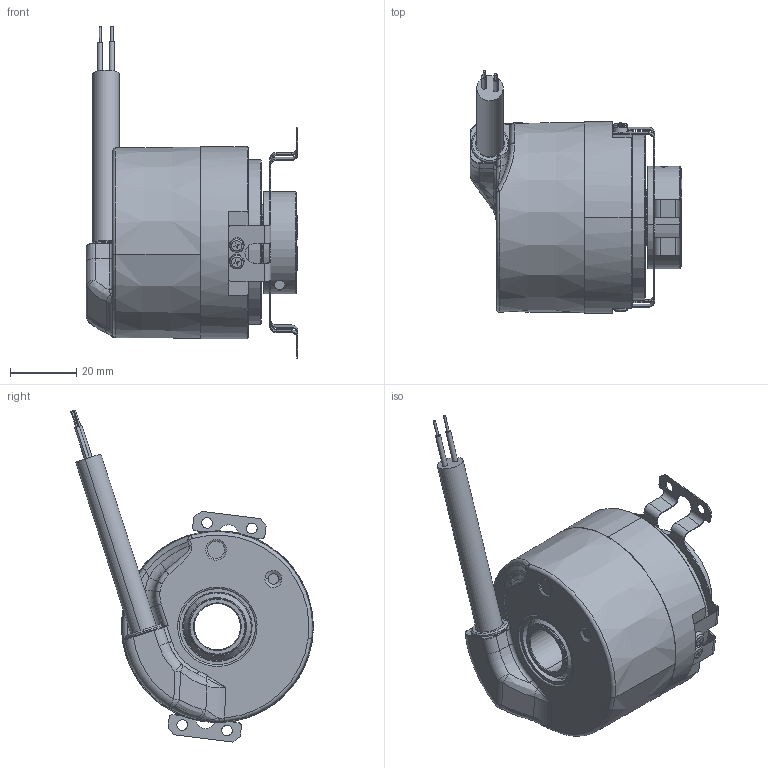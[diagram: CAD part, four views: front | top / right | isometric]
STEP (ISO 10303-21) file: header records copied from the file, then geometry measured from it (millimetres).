
FILE_DESCRIPTION (( 'STEP AP203' ), '1' );
FILE_NAME ('8.5834FSx.B5XE.XXXX.STEP', '2013-08-01T13:22:45', ( 'Admin' ), ( 'Fritz Kübler GmbH' ), 'SwSTEP 2.0', 'SolidWorks 2012', '' );
FILE_SCHEMA (( 'CONFIG_CONTROL_DESIGN' ));
Length unit declared in the file: millimetre
Products named in the file (1): 8.5834FSx.B5XE.XXXX
Bounding box: 64 x 73.34 x 100.32 mm (x, y, z)
Volume: 69909.4 mm3; surface area: 51220.5 mm2
Topology: 15 solids, 16 shells, 1800 faces, 4376 edges, 2616 vertices
Faces by surface type: cylinder 594, plane 454, bspline 365, torus 168, cone 165, sphere 54
Entity records: 64775 total; most frequent: CARTESIAN_POINT 25681, ORIENTED_EDGE 8512, DIRECTION 7774, EDGE_CURVE 4256, AXIS2_PLACEMENT_3D 3162, VERTEX_POINT 2580, EDGE_LOOP 1980, ADVANCED_FACE 1800
